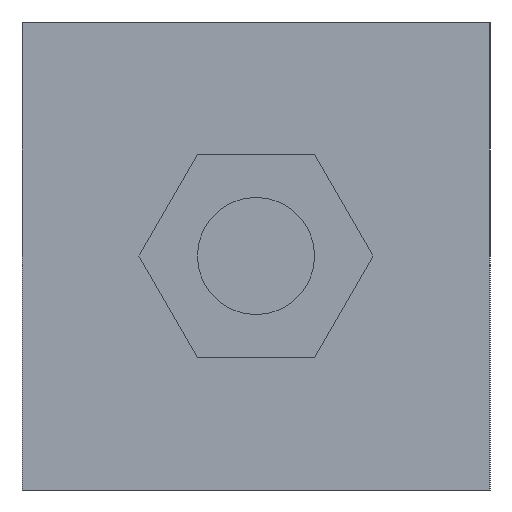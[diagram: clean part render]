
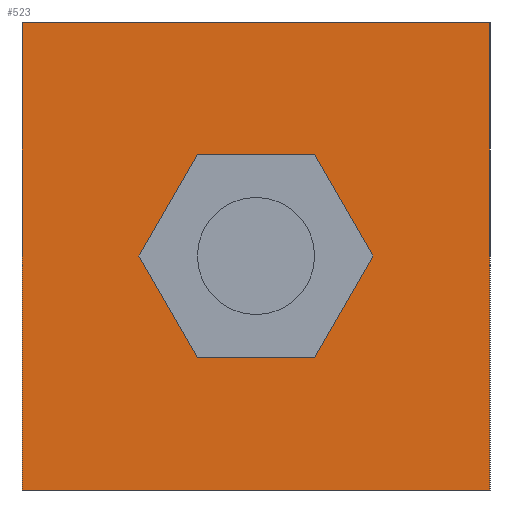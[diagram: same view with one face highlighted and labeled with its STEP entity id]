
A CAD part, left-side view. The second image highlights one B-rep face of the part: STEP entity #523.
In plain terms, the highlighted planar face has unit normal (-1, 0, 0) as drawn and (0, 0, -1) by its records, which use the part's own axes.
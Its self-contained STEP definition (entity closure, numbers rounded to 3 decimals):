
#44=FACE_BOUND('',#90,.T.);
#59=FACE_OUTER_BOUND('',#89,.T.);
#89=EDGE_LOOP('',(#399,#400,#401,#402));
#90=EDGE_LOOP('',(#403,#404,#405,#406,#407,#408));
#113=LINE('',#808,#175);
#116=LINE('',#814,#178);
#119=LINE('',#820,#181);
#122=LINE('',#826,#184);
#125=LINE('',#832,#187);
#128=LINE('',#836,#190);
#131=LINE('',#844,#193);
#134=LINE('',#850,#196);
#137=LINE('',#856,#199);
#140=LINE('',#860,#202);
#175=VECTOR('',#661,10.);
#178=VECTOR('',#666,10.);
#181=VECTOR('',#671,10.);
#184=VECTOR('',#676,10.);
#187=VECTOR('',#681,10.);
#190=VECTOR('',#686,10.);
#193=VECTOR('',#691,10.);
#196=VECTOR('',#696,10.);
#199=VECTOR('',#701,10.);
#202=VECTOR('',#706,10.);
#237=VERTEX_POINT('',#805);
#238=VERTEX_POINT('',#807);
#240=VERTEX_POINT('',#813);
#242=VERTEX_POINT('',#819);
#244=VERTEX_POINT('',#825);
#246=VERTEX_POINT('',#831);
#249=VERTEX_POINT('',#841);
#250=VERTEX_POINT('',#843);
#252=VERTEX_POINT('',#849);
#254=VERTEX_POINT('',#855);
#283=EDGE_CURVE('',#238,#237,#113,.T.);
#286=EDGE_CURVE('',#240,#238,#116,.T.);
#289=EDGE_CURVE('',#242,#240,#119,.T.);
#292=EDGE_CURVE('',#244,#242,#122,.T.);
#295=EDGE_CURVE('',#246,#244,#125,.T.);
#298=EDGE_CURVE('',#237,#246,#128,.T.);
#301=EDGE_CURVE('',#250,#249,#131,.T.);
#304=EDGE_CURVE('',#252,#250,#134,.T.);
#307=EDGE_CURVE('',#254,#252,#137,.T.);
#310=EDGE_CURVE('',#249,#254,#140,.T.);
#399=ORIENTED_EDGE('',*,*,#310,.T.);
#400=ORIENTED_EDGE('',*,*,#307,.T.);
#401=ORIENTED_EDGE('',*,*,#304,.T.);
#402=ORIENTED_EDGE('',*,*,#301,.T.);
#403=ORIENTED_EDGE('',*,*,#298,.T.);
#404=ORIENTED_EDGE('',*,*,#295,.T.);
#405=ORIENTED_EDGE('',*,*,#292,.T.);
#406=ORIENTED_EDGE('',*,*,#289,.T.);
#407=ORIENTED_EDGE('',*,*,#286,.T.);
#408=ORIENTED_EDGE('',*,*,#283,.T.);
#496=PLANE('',#624);
#523=ADVANCED_FACE('',(#59,#44),#496,.T.);
#624=AXIS2_PLACEMENT_3D('',#862,#709,#710);
#661=DIRECTION('',(1.,0.,0.));
#666=DIRECTION('',(0.5,-0.866,0.));
#671=DIRECTION('',(-0.5,-0.866,0.));
#676=DIRECTION('',(-1.,0.,0.));
#681=DIRECTION('',(-0.5,0.866,0.));
#686=DIRECTION('',(0.5,0.866,0.));
#691=DIRECTION('',(0.,-1.,0.));
#696=DIRECTION('',(1.,0.,0.));
#701=DIRECTION('',(0.,1.,0.));
#706=DIRECTION('',(-1.,0.,0.));
#709=DIRECTION('center_axis',(0.,0.,-1.));
#710=DIRECTION('ref_axis',(-1.,0.,0.));
#805=CARTESIAN_POINT('',(5.,-8.66,-40.));
#807=CARTESIAN_POINT('',(-5.,-8.66,-40.));
#808=CARTESIAN_POINT('',(5.,-8.66,-40.));
#813=CARTESIAN_POINT('',(-10.,0.,-40.));
#814=CARTESIAN_POINT('',(-5.,-8.66,-40.));
#819=CARTESIAN_POINT('',(-5.,8.66,-40.));
#820=CARTESIAN_POINT('',(-10.,0.,-40.));
#825=CARTESIAN_POINT('',(5.,8.66,-40.));
#826=CARTESIAN_POINT('',(-5.,8.66,-40.));
#831=CARTESIAN_POINT('',(10.,0.,-40.));
#832=CARTESIAN_POINT('',(5.,8.66,-40.));
#836=CARTESIAN_POINT('',(10.,0.,-40.));
#841=CARTESIAN_POINT('',(20.,-20.,-40.));
#843=CARTESIAN_POINT('',(20.,20.,-40.));
#844=CARTESIAN_POINT('',(20.,-20.,-40.));
#849=CARTESIAN_POINT('',(-20.,20.,-40.));
#850=CARTESIAN_POINT('',(20.,20.,-40.));
#855=CARTESIAN_POINT('',(-20.,-20.,-40.));
#856=CARTESIAN_POINT('',(-20.,20.,-40.));
#860=CARTESIAN_POINT('',(-20.,-20.,-40.));
#862=CARTESIAN_POINT('Origin',(0.,0.,-40.));
